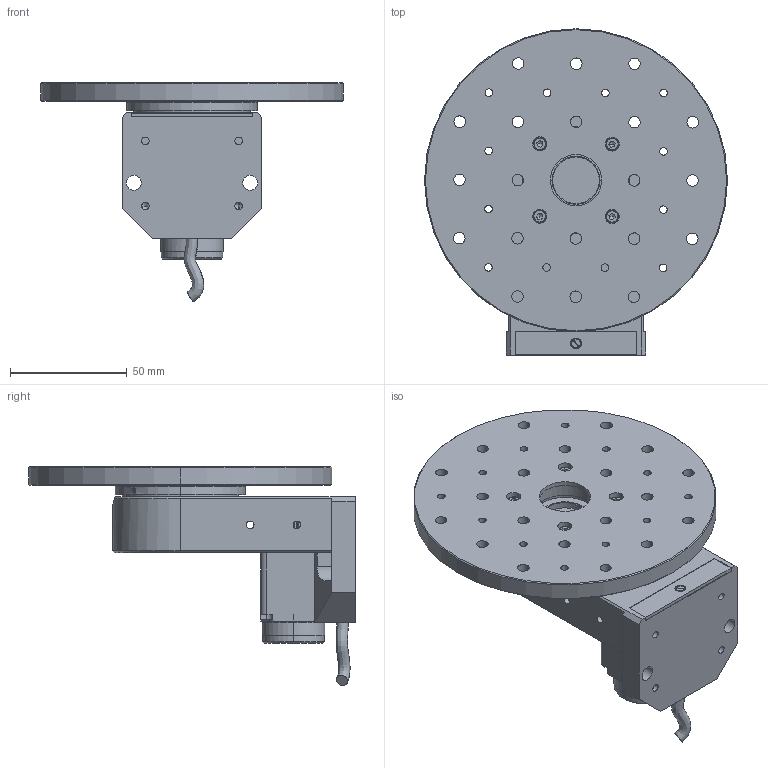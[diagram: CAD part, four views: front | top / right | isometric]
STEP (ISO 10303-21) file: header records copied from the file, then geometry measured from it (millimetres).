
FILE_DESCRIPTION (( 'STEP AP203' ), '1' );
FILE_NAME ('8MRU-1TP.STEP', '2010-09-27T11:24:18', ( 'Darius' ), ( '' ), 'SwSTEP 2.0', 'SolidWorks 2003240', '' );
FILE_SCHEMA (( 'CONFIG_CONTROL_DESIGN' ));
Length unit declared in the file: millimetre
Products named in the file (1): 8MRU-1TP
Bounding box: 130 x 140 x 93.91 mm (x, y, z)
Volume: 289623.3 mm3; surface area: 65766.6 mm2
Topology: 1 solids, 17 shells, 539 faces, 1335 edges, 851 vertices
Faces by surface type: cylinder 246, plane 188, cone 65, bspline 40
Entity records: 17553 total; most frequent: CARTESIAN_POINT 4696, DIRECTION 2670, ORIENTED_EDGE 2618, EDGE_CURVE 1309, AXIS2_PLACEMENT_3D 1042, VERTEX_POINT 851, EDGE_LOOP 674, VECTOR 586
